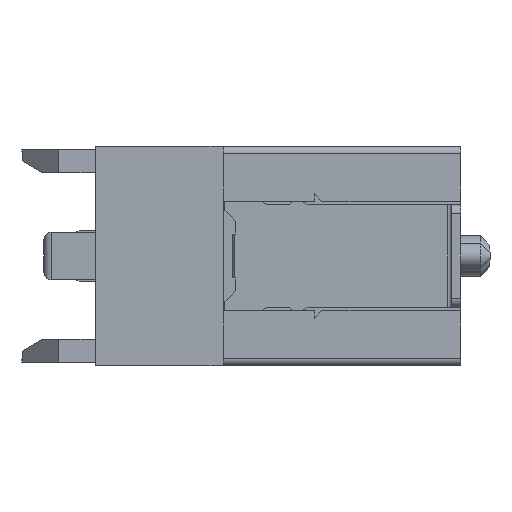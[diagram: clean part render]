
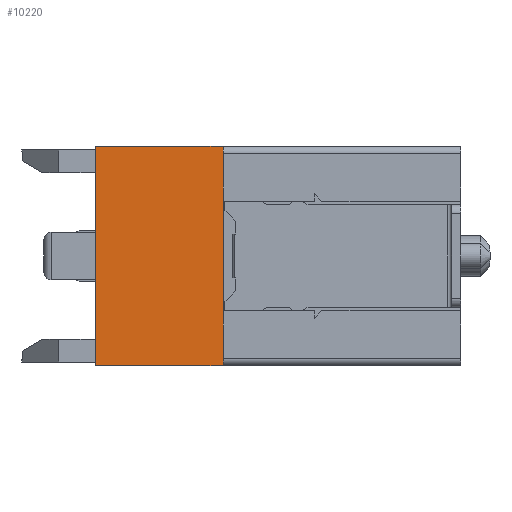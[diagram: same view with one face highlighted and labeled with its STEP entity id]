
A CAD part, left-side view. The second image highlights one B-rep face of the part: STEP entity #10220.
In plain terms, the highlighted planar face has unit normal (-1, 0, 0).
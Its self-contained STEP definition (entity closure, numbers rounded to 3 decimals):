
#572 = VECTOR ( 'NONE', #12341, 1000. ) ;
#593 = VERTEX_POINT ( 'NONE', #11141 ) ;
#2144 = LINE ( 'NONE', #12187, #45161 ) ;
#2838 = EDGE_CURVE ( 'NONE', #593, #15836, #2144, .T. ) ;
#4162 = EDGE_LOOP ( 'NONE', ( #43830, #48041, #19365, #41042 ) ) ;
#4347 = CARTESIAN_POINT ( 'NONE',  ( -26.55, 10., 3. ) ) ;
#5041 = FACE_OUTER_BOUND ( 'NONE', #4162, .T. ) ;
#6103 = LINE ( 'NONE', #8210, #7863 ) ;
#6132 = EDGE_CURVE ( 'NONE', #30733, #25582, #6103, .T. ) ;
#7732 = DIRECTION ( 'NONE',  ( 0., 0., 1. ) ) ;
#7863 = VECTOR ( 'NONE', #7732, 1000. ) ;
#8210 = CARTESIAN_POINT ( 'NONE',  ( -26.55, 10., -9.338 ) ) ;
#10220 = ADVANCED_FACE ( 'NONE', ( #5041 ), #22155, .F. ) ;
#11141 = CARTESIAN_POINT ( 'NONE',  ( -26.55, 6.5, -3. ) ) ;
#11191 = DIRECTION ( 'NONE',  ( 0., 0., 1. ) ) ;
#12187 = CARTESIAN_POINT ( 'NONE',  ( -26.55, 6.5, -9.338 ) ) ;
#12341 = DIRECTION ( 'NONE',  ( 0., 1., 0. ) ) ;
#14903 = EDGE_CURVE ( 'NONE', #593, #30733, #42759, .T. ) ;
#15836 = VERTEX_POINT ( 'NONE', #34546 ) ;
#16194 = VECTOR ( 'NONE', #37912, 1000. ) ;
#17710 = CARTESIAN_POINT ( 'NONE',  ( -26.55, 10., -3. ) ) ;
#19365 = ORIENTED_EDGE ( 'NONE', *, *, #6132, .F. ) ;
#22155 = PLANE ( 'NONE',  #37183 ) ;
#24133 = LINE ( 'NONE', #42212, #572 ) ;
#25582 = VERTEX_POINT ( 'NONE', #4347 ) ;
#26082 = CARTESIAN_POINT ( 'NONE',  ( -26.55, 6.5, -9.338 ) ) ;
#26421 = DIRECTION ( 'NONE',  ( 1., 0., 0. ) ) ;
#29895 = EDGE_CURVE ( 'NONE', #15836, #25582, #24133, .T. ) ;
#30733 = VERTEX_POINT ( 'NONE', #17710 ) ;
#30974 = CARTESIAN_POINT ( 'NONE',  ( -26.55, 6.5, -3. ) ) ;
#34546 = CARTESIAN_POINT ( 'NONE',  ( -26.55, 6.5, 3. ) ) ;
#37183 = AXIS2_PLACEMENT_3D ( 'NONE', #26082, #26421, #41313 ) ;
#37912 = DIRECTION ( 'NONE',  ( 0., 1., 0. ) ) ;
#41042 = ORIENTED_EDGE ( 'NONE', *, *, #14903, .F. ) ;
#41313 = DIRECTION ( 'NONE',  ( 0., 0., -1. ) ) ;
#42212 = CARTESIAN_POINT ( 'NONE',  ( -26.55, 6.5, 3. ) ) ;
#42759 = LINE ( 'NONE', #30974, #16194 ) ;
#43830 = ORIENTED_EDGE ( 'NONE', *, *, #2838, .T. ) ;
#45161 = VECTOR ( 'NONE', #11191, 1000. ) ;
#48041 = ORIENTED_EDGE ( 'NONE', *, *, #29895, .T. ) ;
